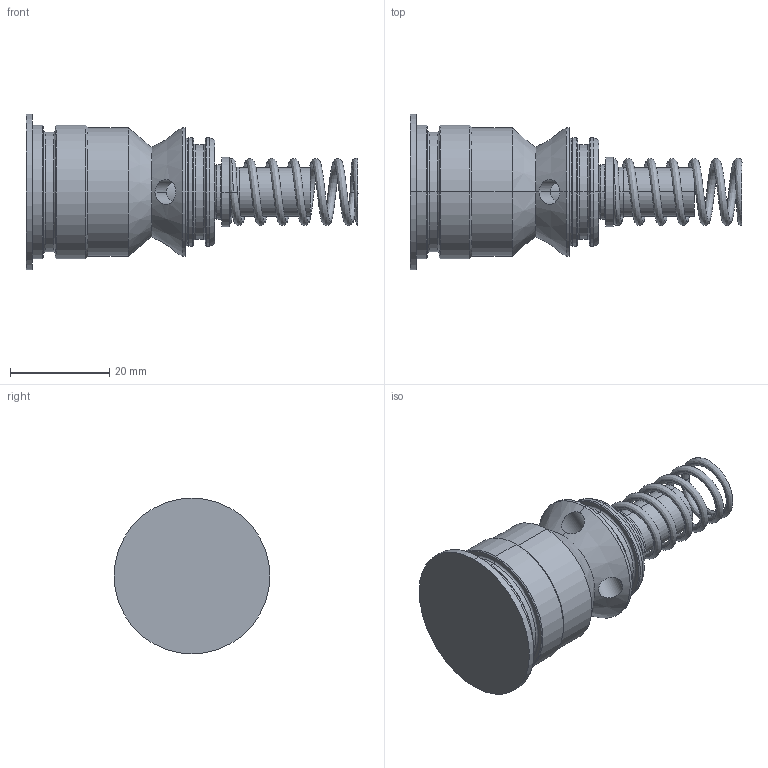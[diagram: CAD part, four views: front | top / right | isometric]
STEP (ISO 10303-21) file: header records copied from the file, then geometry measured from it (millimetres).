
FILE_DESCRIPTION (( 'STEP AP214' ), '1' );
FILE_NAME ('2210.STEP', '2021-08-17T09:07:53', ( '' ), ( '' ), 'SwSTEP 2.0', 'SolidWorks 2020', '' );
FILE_SCHEMA (( 'AUTOMOTIVE_DESIGN' ));
Length unit declared in the file: millimetre
Products named in the file (1): 2210
Bounding box: 67.06 x 31.5 x 31.5 mm (x, y, z)
Volume: 19595.9 mm3; surface area: 7624.9 mm2
Topology: 3 solids, 3 shells, 99 faces, 194 edges, 113 vertices
Faces by surface type: cylinder 41, cone 20, plane 16, torus 16, bspline 6
Entity records: 8465 total; most frequent: CARTESIAN_POINT 5279, DIRECTION 467, ORIENTED_EDGE 388, AXIS2_PLACEMENT_3D 204, EDGE_CURVE 194, VERTEX_POINT 113, EDGE_LOOP 111, CIRCLE 110
